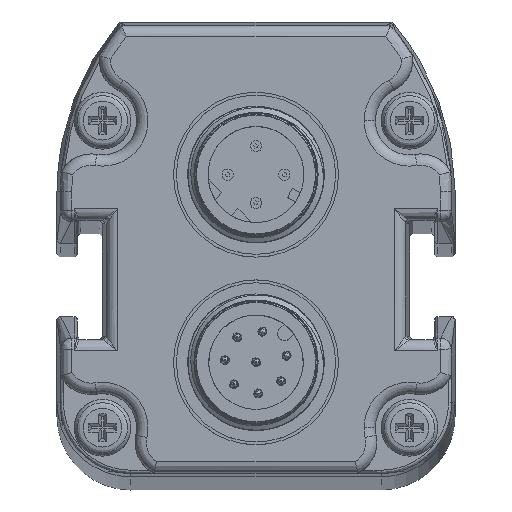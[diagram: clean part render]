
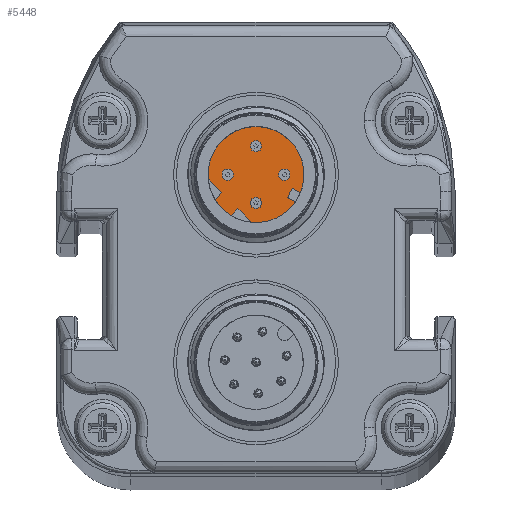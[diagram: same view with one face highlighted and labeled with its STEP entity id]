
A CAD part, top view. The second image highlights one B-rep face of the part: STEP entity #5448.
In plain terms, the highlighted planar face has unit normal (0, 0, 1).
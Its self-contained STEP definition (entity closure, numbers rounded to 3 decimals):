
#4356=CIRCLE('',#14630,0.5);
#4359=CIRCLE('',#14636,0.5);
#4362=CIRCLE('',#14642,0.5);
#4365=CIRCLE('',#14648,0.5);
#4368=CIRCLE('',#14660,4.225);
#4369=CIRCLE('',#14661,4.225);
#4370=CIRCLE('',#14662,4.225);
#4371=CIRCLE('',#14663,4.225);
#4986=FACE_BOUND('',#6869,.T.);
#4987=FACE_BOUND('',#6870,.T.);
#4988=FACE_BOUND('',#6871,.T.);
#4989=FACE_BOUND('',#6872,.T.);
#4990=FACE_BOUND('',#6873,.T.);
#5448=ADVANCED_FACE('F38',(#4986,#4987,#4988,#4989,#4990),#5810,.F.);
#5810=PLANE('',#14664);
#6869=EDGE_LOOP('',(#9162));
#6870=EDGE_LOOP('',(#9163));
#6871=EDGE_LOOP('',(#9164));
#6872=EDGE_LOOP('',(#9165));
#6873=EDGE_LOOP('',(#9166,#9167,#9168,#9169,#9170,#9171,#9172,#9173,#9174,
#9175,#9176));
#9162=ORIENTED_EDGE('',*,*,#12199,.F.);
#9163=ORIENTED_EDGE('',*,*,#12204,.F.);
#9164=ORIENTED_EDGE('',*,*,#12209,.F.);
#9165=ORIENTED_EDGE('',*,*,#12214,.F.);
#9166=ORIENTED_EDGE('',*,*,#12238,.T.);
#9167=ORIENTED_EDGE('',*,*,#12239,.T.);
#9168=ORIENTED_EDGE('',*,*,#12236,.F.);
#9169=ORIENTED_EDGE('',*,*,#12230,.F.);
#9170=ORIENTED_EDGE('',*,*,#12240,.T.);
#9171=ORIENTED_EDGE('',*,*,#12228,.F.);
#9172=ORIENTED_EDGE('',*,*,#12222,.F.);
#9173=ORIENTED_EDGE('',*,*,#12241,.T.);
#9174=ORIENTED_EDGE('',*,*,#12219,.F.);
#9175=ORIENTED_EDGE('',*,*,#12215,.F.);
#9176=ORIENTED_EDGE('',*,*,#12242,.F.);
#10859=VERTEX_POINT('',#21806);
#10862=VERTEX_POINT('',#21817);
#10865=VERTEX_POINT('',#21828);
#10868=VERTEX_POINT('',#21839);
#10869=VERTEX_POINT('',#21843);
#10870=VERTEX_POINT('',#21844);
#10873=VERTEX_POINT('',#21852);
#10875=VERTEX_POINT('',#21858);
#10876=VERTEX_POINT('',#21859);
#10880=VERTEX_POINT('',#21871);
#10881=VERTEX_POINT('',#21875);
#10882=VERTEX_POINT('',#21876);
#10886=VERTEX_POINT('',#21888);
#10887=VERTEX_POINT('',#21892);
#10888=VERTEX_POINT('',#21893);
#12199=EDGE_CURVE('E75',#10859,#10859,#4356,.T.);
#12204=EDGE_CURVE('E71',#10862,#10862,#4359,.T.);
#12209=EDGE_CURVE('E67',#10865,#10865,#4362,.T.);
#12214=EDGE_CURVE('E63',#10868,#10868,#4365,.T.);
#12215=EDGE_CURVE('E27',#10869,#10870,#13169,.T.);
#12219=EDGE_CURVE('E30',#10870,#10873,#13173,.T.);
#12222=EDGE_CURVE('E57',#10875,#10876,#13176,.T.);
#12228=EDGE_CURVE('E55',#10876,#10880,#13181,.T.);
#12230=EDGE_CURVE('E52',#10881,#10882,#13183,.T.);
#12236=EDGE_CURVE('E54',#10882,#10886,#13188,.T.);
#12238=EDGE_CURVE('E11',#10887,#10888,#4368,.T.);
#12239=EDGE_CURVE('E14',#10888,#10886,#4369,.T.);
#12240=EDGE_CURVE('E18',#10881,#10880,#4370,.T.);
#12241=EDGE_CURVE('E22',#10875,#10873,#4371,.T.);
#12242=EDGE_CURVE('E24',#10887,#10869,#13190,.T.);
#13169=LINE('',#21842,#13833);
#13173=LINE('',#21851,#13837);
#13176=LINE('',#21857,#13840);
#13181=LINE('',#21870,#13845);
#13183=LINE('',#21874,#13847);
#13188=LINE('',#21887,#13852);
#13190=LINE('',#21897,#13854);
#13833=VECTOR('',#16832,1.);
#13837=VECTOR('',#16838,1.);
#13840=VECTOR('',#16843,1.);
#13845=VECTOR('',#16854,1.);
#13847=VECTOR('',#16858,1.);
#13852=VECTOR('',#16869,1.);
#13854=VECTOR('',#16881,1.);
#14630=AXIS2_PLACEMENT_3D('',#21807,#16786,#16787);
#14636=AXIS2_PLACEMENT_3D('',#21818,#16800,#16801);
#14642=AXIS2_PLACEMENT_3D('',#21829,#16814,#16815);
#14648=AXIS2_PLACEMENT_3D('',#21840,#16828,#16829);
#14660=AXIS2_PLACEMENT_3D('',#21891,#16873,#16874);
#14661=AXIS2_PLACEMENT_3D('',#21894,#16875,#16876);
#14662=AXIS2_PLACEMENT_3D('',#21895,#16877,#16878);
#14663=AXIS2_PLACEMENT_3D('',#21896,#16879,#16880);
#14664=AXIS2_PLACEMENT_3D('',#21898,#16882,#16883);
#16786=DIRECTION('',(0.,0.,1.));
#16787=DIRECTION('',(0.707,-0.707,0.));
#16800=DIRECTION('',(0.,0.,1.));
#16801=DIRECTION('',(0.707,-0.707,0.));
#16814=DIRECTION('',(0.,0.,1.));
#16815=DIRECTION('',(0.707,-0.707,0.));
#16828=DIRECTION('',(0.,0.,1.));
#16829=DIRECTION('',(0.707,-0.707,0.));
#16832=DIRECTION('',(-0.477,-0.879,0.));
#16838=DIRECTION('',(0.879,-0.477,0.));
#16843=DIRECTION('',(-0.707,0.707,0.));
#16854=DIRECTION('',(-0.707,-0.707,0.));
#16858=DIRECTION('',(0.707,0.707,0.));
#16869=DIRECTION('',(-0.707,0.707,0.));
#16873=DIRECTION('',(0.,0.,1.));
#16874=DIRECTION('',(0.925,-0.381,0.));
#16875=DIRECTION('',(0.,0.,1.));
#16876=DIRECTION('',(-0.707,0.707,0.));
#16877=DIRECTION('',(0.,0.,1.));
#16878=DIRECTION('',(-0.854,-0.52,0.));
#16879=DIRECTION('',(0.,0.,1.));
#16880=DIRECTION('',(-0.092,-0.996,0.));
#16881=DIRECTION('',(-0.879,0.477,0.));
#16882=DIRECTION('',(0.,0.,-1.));
#16883=DIRECTION('',(-0.707,0.707,0.));
#21806=CARTESIAN_POINT('',(84.866,23.704,1749.268));
#21807=CARTESIAN_POINT('',(84.513,24.057,1749.268));
#21817=CARTESIAN_POINT('',(82.366,26.204,1749.268));
#21818=CARTESIAN_POINT('',(82.013,26.557,1749.268));
#21828=CARTESIAN_POINT('',(79.866,23.704,1749.268));
#21829=CARTESIAN_POINT('',(79.513,24.057,1749.268));
#21839=CARTESIAN_POINT('',(82.366,21.204,1749.268));
#21840=CARTESIAN_POINT('',(82.013,21.557,1749.268));
#21842=CARTESIAN_POINT('',(85.001,22.435,1749.268));
#21843=CARTESIAN_POINT('',(85.215,22.83,1749.268));
#21844=CARTESIAN_POINT('',(84.786,22.039,1749.268));
#21851=CARTESIAN_POINT('',(85.138,21.848,1749.268));
#21852=CARTESIAN_POINT('',(85.49,21.657,1749.268));
#21857=CARTESIAN_POINT('',(81.023,20.451,1749.268));
#21858=CARTESIAN_POINT('',(81.624,19.85,1749.268));
#21859=CARTESIAN_POINT('',(80.422,21.052,1749.268));
#21870=CARTESIAN_POINT('',(80.119,20.75,1749.268));
#21871=CARTESIAN_POINT('',(79.817,20.447,1749.268));
#21874=CARTESIAN_POINT('',(78.705,22.164,1749.268));
#21875=CARTESIAN_POINT('',(78.403,21.862,1749.268));
#21876=CARTESIAN_POINT('',(79.008,22.466,1749.268));
#21887=CARTESIAN_POINT('',(78.407,23.067,1749.268));
#21888=CARTESIAN_POINT('',(77.806,23.668,1749.268));
#21891=CARTESIAN_POINT('',(82.013,24.057,1749.268));
#21892=CARTESIAN_POINT('',(85.919,22.448,1749.268));
#21893=CARTESIAN_POINT('',(79.025,27.045,1749.268));
#21894=CARTESIAN_POINT('',(82.013,24.057,1749.268));
#21895=CARTESIAN_POINT('',(82.013,24.057,1749.268));
#21896=CARTESIAN_POINT('',(82.013,24.057,1749.268));
#21897=CARTESIAN_POINT('',(85.567,22.639,1749.268));
#21898=CARTESIAN_POINT('',(82.013,17.783,1749.268));
